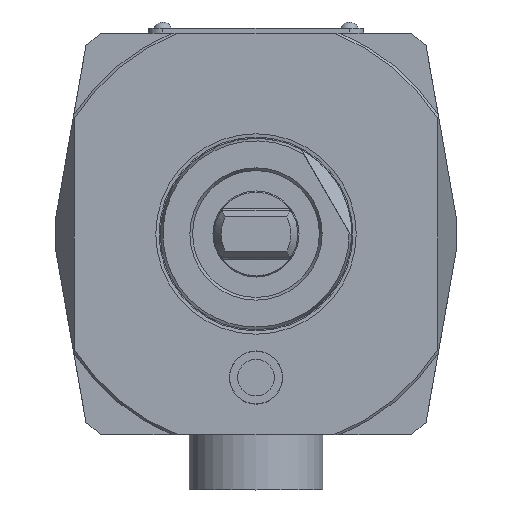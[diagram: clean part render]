
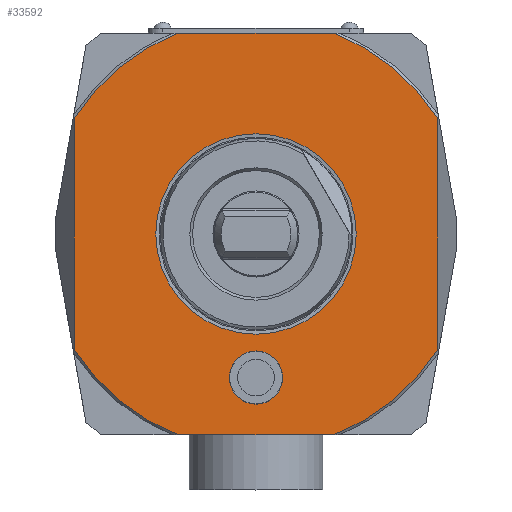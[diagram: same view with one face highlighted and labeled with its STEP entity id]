
A CAD part, left-side view. The second image highlights one B-rep face of the part: STEP entity #33592.
In plain terms, the highlighted planar face has unit normal (-1, 0, 0).
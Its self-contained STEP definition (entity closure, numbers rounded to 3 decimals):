
#14354=VECTOR('',#22752,1.);
#14376=VECTOR('',#22842,1.);
#14377=VECTOR('',#22845,1.);
#14378=VECTOR('',#22848,1.);
#15044=LINE('',#25494,#14354);
#15066=LINE('',#25578,#14376);
#15067=LINE('',#25582,#14377);
#15068=LINE('',#25585,#14378);
#15908=ORIENTED_EDGE('',*,*,#19984,.F.);
#15909=ORIENTED_EDGE('',*,*,#20025,.F.);
#15910=ORIENTED_EDGE('',*,*,#20026,.F.);
#15911=ORIENTED_EDGE('',*,*,#20027,.F.);
#15912=ORIENTED_EDGE('',*,*,#20028,.F.);
#15913=ORIENTED_EDGE('',*,*,#20029,.F.);
#15914=ORIENTED_EDGE('',*,*,#20030,.F.);
#15915=ORIENTED_EDGE('',*,*,#20022,.F.);
#15916=ORIENTED_EDGE('',*,*,#20031,.F.);
#15917=ORIENTED_EDGE('',*,*,#20032,.F.);
#18633=CIRCLE('',#32264,45.);
#18634=CIRCLE('',#32268,45.);
#18635=CIRCLE('',#32269,45.);
#18636=CIRCLE('',#32270,45.);
#18637=CIRCLE('',#32271,5.55);
#18638=CIRCLE('',#32272,20.94);
#19047=VERTEX_POINT('',#25491);
#19048=VERTEX_POINT('',#25493);
#19073=VERTEX_POINT('',#25569);
#19075=VERTEX_POINT('',#25575);
#19076=VERTEX_POINT('',#25577);
#19077=VERTEX_POINT('',#25579);
#19078=VERTEX_POINT('',#25581);
#19079=VERTEX_POINT('',#25583);
#19080=VERTEX_POINT('',#25586);
#19081=VERTEX_POINT('',#25588);
#19984=EDGE_CURVE('',#19047,#19048,#15044,.T.);
#20022=EDGE_CURVE('',#19048,#19073,#18633,.T.);
#20025=EDGE_CURVE('',#19075,#19047,#18634,.T.);
#20026=EDGE_CURVE('',#19076,#19075,#15066,.T.);
#20027=EDGE_CURVE('',#19077,#19076,#18635,.T.);
#20028=EDGE_CURVE('',#19078,#19077,#15067,.T.);
#20029=EDGE_CURVE('',#19079,#19078,#18636,.T.);
#20030=EDGE_CURVE('',#19073,#19079,#15068,.T.);
#20031=EDGE_CURVE('',#19080,#19080,#18637,.T.);
#20032=EDGE_CURVE('',#19081,#19081,#18638,.T.);
#21386=EDGE_LOOP('',(#15908,#15909,#15910,#15911,#15912,#15913,#15914,#15915));
#21387=EDGE_LOOP('',(#15916));
#21388=EDGE_LOOP('',(#15917));
#22069=FACE_BOUND('',#21386,.T.);
#22070=FACE_BOUND('',#21387,.T.);
#22071=FACE_BOUND('',#21388,.T.);
#22752=DIRECTION('',(0.,32.311,0.));
#22832=DIRECTION('',(1.,0.,0.));
#22833=DIRECTION('',(0.,16.155,-42.));
#22838=DIRECTION('',(-1.,0.,0.));
#22839=DIRECTION('',(0.,1.,0.));
#22840=DIRECTION('',(1.,0.,0.));
#22841=DIRECTION('',(0.,-38.303,-23.62));
#22842=DIRECTION('',(0.,0.,-48.208));
#22843=DIRECTION('',(1.,0.,0.));
#22844=DIRECTION('',(0.,-16.155,42.));
#22845=DIRECTION('',(0.,-32.311,0.));
#22846=DIRECTION('',(1.,0.,0.));
#22847=DIRECTION('',(0.,38.303,23.62));
#22848=DIRECTION('',(0.,0.,48.208));
#22849=DIRECTION('',(-1.,0.,0.));
#22850=DIRECTION('',(0.,0.,5.55));
#22851=DIRECTION('',(-1.,0.,0.));
#22852=DIRECTION('',(0.,0.,20.94));
#25491=CARTESIAN_POINT('',(0.,-16.155,-42.));
#25493=CARTESIAN_POINT('',(0.,16.155,-42.));
#25494=CARTESIAN_POINT('',(0.,-16.155,-42.));
#25569=CARTESIAN_POINT('',(0.,38.,-24.104));
#25570=CARTESIAN_POINT('',(0.,0.,0.));
#25574=CARTESIAN_POINT('',(0.,0.,-45.));
#25575=CARTESIAN_POINT('',(0.,-38.,-24.104));
#25576=CARTESIAN_POINT('',(0.,0.,0.));
#25577=CARTESIAN_POINT('',(0.,-38.,24.104));
#25578=CARTESIAN_POINT('',(0.,-38.,24.104));
#25579=CARTESIAN_POINT('',(0.,-16.155,42.));
#25580=CARTESIAN_POINT('',(0.,0.,0.));
#25581=CARTESIAN_POINT('',(0.,16.155,42.));
#25582=CARTESIAN_POINT('',(0.,16.155,42.));
#25583=CARTESIAN_POINT('',(0.,38.,24.104));
#25584=CARTESIAN_POINT('',(0.,0.,0.));
#25585=CARTESIAN_POINT('',(0.,38.,-24.104));
#25586=CARTESIAN_POINT('',(0.,0.,-24.45));
#25587=CARTESIAN_POINT('',(0.,0.,-30.));
#25588=CARTESIAN_POINT('',(0.,0.,20.94));
#25589=CARTESIAN_POINT('',(0.,0.,0.));
#32264=AXIS2_PLACEMENT_3D('',#25570,#22832,#22833);
#32267=AXIS2_PLACEMENT_3D('',#25574,#22838,#22839);
#32268=AXIS2_PLACEMENT_3D('',#25576,#22840,#22841);
#32269=AXIS2_PLACEMENT_3D('',#25580,#22843,#22844);
#32270=AXIS2_PLACEMENT_3D('',#25584,#22846,#22847);
#32271=AXIS2_PLACEMENT_3D('',#25587,#22849,#22850);
#32272=AXIS2_PLACEMENT_3D('',#25589,#22851,#22852);
#33263=PLANE('',#32267);
#33592=ADVANCED_FACE('',(#22069,#22070,#22071),#33263,.T.);
